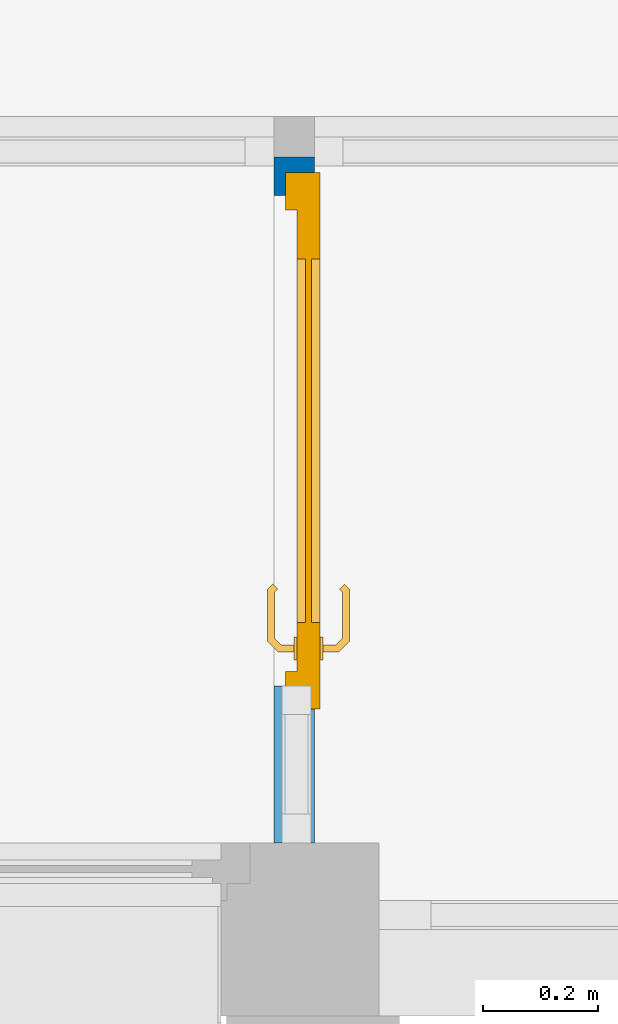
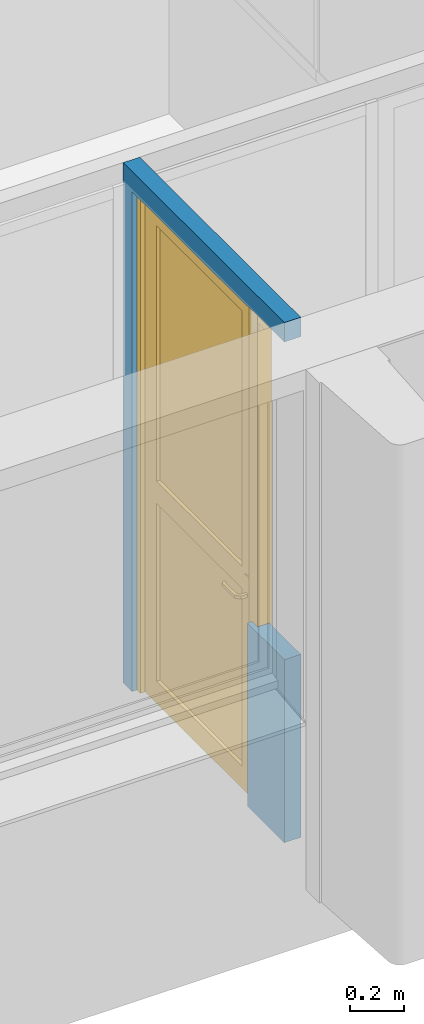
# One storey, part 11 of 19: 1 door, 1 wall, 2 openings.
"""IFC4 building model written with IfcOpenShell, lengths in metres."""

import ifcopenshell
import ifcopenshell.guid

model = None  # the IFC model being written
_history = None  # IfcOwnerHistory: only IFC2X3 demands one
_inside = {}  # id of a spatial element -> (the spatial element, [elements in it])
_under = {}  # id of a project, library or spatial element -> (it, [spatial elements below it])
_declared = {}  # id of a project -> (the project, [libraries it declares])
_typed = {}  # id of a type object -> (the type object, [elements of that type])
_made_of = {}  # id of a material, layer set ... -> (it, [elements and type objects made of it])


def new_model(schema):
    """Start an empty IFC model of exactly this schema.

    Asked for "IFC4X3", IfcOpenShell would pick the latest addendum, in which some entities
    have other attributes; the version numbers below select the first issue.
    IFC2X3 requires an IfcOwnerHistory on every rooted entity: one is made here for all.
    """
    global model, _history
    if schema == "IFC4X3":
        model = ifcopenshell.file(schema_version=(4, 3, 0, 0))
    else:
        model = ifcopenshell.file(schema=schema)
    _inside.clear()
    _under.clear()
    _declared.clear()
    _typed.clear()
    _made_of.clear()
    _history = None
    if model.schema == "IFC2X3":
        org = make("IfcOrganization", Name="unknown")
        user = make(
            "IfcPersonAndOrganization",
            ThePerson=make("IfcPerson", FamilyName="unknown"),
            TheOrganization=org,
        )
        app = make(
            "IfcApplication",
            ApplicationDeveloper=org,
            Version="unknown",
            ApplicationFullName="unknown",
            ApplicationIdentifier="unknown",
        )
        _history = make(
            "IfcOwnerHistory",
            OwningUser=user,
            OwningApplication=app,
            ChangeAction="ADDED",
            CreationDate=0,
        )
    return model


def make(cls, **values):
    """One entity of the class cls with the attributes given. An attribute that is None is left unset."""
    return model.create_entity(
        cls, **{name: value for name, value in values.items() if value is not None}
    )


def entity(cls, *values):
    """Any entity or typed value of the class cls, its attributes in the order of the schema. None: left unset."""
    e = model.create_entity(cls)
    for i, value in enumerate(values):
        if value is not None:
            e[i] = value
    return e


def rooted(cls, **values):
    """An entity with a GlobalId (a new one), such as an element, a storey or a relation."""
    return make(cls, GlobalId=ifcopenshell.guid.new(), OwnerHistory=_history, **values)


def si_unit(unit_type, name, prefix=None):
    """IfcSIUnit, for example si_unit("LENGTHUNIT", "METRE", prefix="MILLI")."""
    return make("IfcSIUnit", UnitType=unit_type, Prefix=prefix, Name=name)


def converted_unit(unit_type, name, factor, base, dimensions=None, offset=None):
    """IfcConversionBasedUnit, such as the inch: factor (a typed value) times the base unit."""
    return make(
        "IfcConversionBasedUnit"
        if offset is None
        else "IfcConversionBasedUnitWithOffset",
        ConversionOffset=offset,
        Dimensions=None
        if dimensions is None
        else entity("IfcDimensionalExponents", *dimensions),
        UnitType=unit_type,
        Name=name,
        ConversionFactor=make(
            "IfcMeasureWithUnit", ValueComponent=factor, UnitComponent=base
        ),
    )


def derived_unit(unit_type, elements):
    """IfcDerivedUnit: a product of units, each with its exponent."""
    return make(
        "IfcDerivedUnit",
        Elements=[
            make("IfcDerivedUnitElement", Unit=unit, Exponent=power)
            for unit, power in elements
        ],
        UnitType=unit_type,
    )


def assignment(units):
    """IfcUnitAssignment: the units of a project."""
    return None if units is None else make("IfcUnitAssignment", Units=units)


def point(xyz):
    """IfcCartesianPoint."""
    return None if xyz is None else make("IfcCartesianPoint", Coordinates=xyz)


def direction(xyz):
    """IfcDirection."""
    return None if xyz is None else make("IfcDirection", DirectionRatios=xyz)


def frame(location, z_axis=None, x_axis=None):
    """IfcAxis2Placement3D, a coordinate frame: its origin and axes. An axis left out is left unset."""
    return make(
        "IfcAxis2Placement3D",
        Location=point(location),
        Axis=direction(z_axis),
        RefDirection=direction(x_axis),
    )


def origin():
    """The frame at (0, 0, 0) with its axes left unset."""
    return frame((0.0, 0.0, 0.0))


def place(relative_to, where):
    """IfcLocalPlacement: puts the frame where relative to a parent placement (None: the world)."""
    return make(
        "IfcLocalPlacement", PlacementRelTo=relative_to, RelativePlacement=where
    )


def context(
    kind, dimensions, precision=None, world=None, true_north=None, identifier=None
):
    """IfcGeometricRepresentationContext, for example the 3D "Model" context."""
    return make(
        "IfcGeometricRepresentationContext",
        ContextIdentifier=identifier,
        ContextType=kind,
        CoordinateSpaceDimension=dimensions,
        Precision=precision,
        WorldCoordinateSystem=world,
        TrueNorth=true_north,
    )


def subcontext(parent, identifier, kind, view, scale=None):
    """IfcGeometricRepresentationSubContext, for example "Body" below "Model"."""
    return make(
        "IfcGeometricRepresentationSubContext",
        ContextIdentifier=identifier,
        ContextType=kind,
        ParentContext=parent,
        TargetScale=scale,
        TargetView=view,
    )


def project(units=None, contexts=None):
    """IfcProject with its units and contexts."""
    return rooted(
        "IfcProject",
        Name="project",
        RepresentationContexts=contexts,
        UnitsInContext=assignment(units),
    )


def spatial(cls, under=None, at=None, **own):
    """A site, building, storey or space (cls), placed at a placement, below another one or the project."""
    s = rooted(cls, ObjectPlacement=at, **own)
    if under is not None:
        _under.setdefault(under.id(), (under, []))[1].append(s)
    return s


def point_list(points):
    """IfcCartesianPointList2D or 3D."""
    cls = (
        "IfcCartesianPointList2D" if len(points[0]) == 2 else "IfcCartesianPointList3D"
    )
    return make(cls, CoordList=points)


def indexed_curve(points, segments=None, self_intersect=None):
    """IfcIndexedPolyCurve: lines and arcs through numbered points (the first is 1)."""
    return make(
        "IfcIndexedPolyCurve",
        Points=point_list(points),
        Segments=segments,
        SelfIntersect=self_intersect,
    )


def outline(outer, holes=None, kind="AREA"):
    """IfcArbitraryClosedProfileDef: a profile drawn as a closed curve; with holes, ...WithVoids."""
    if holes is None:
        return make("IfcArbitraryClosedProfileDef", ProfileType=kind, OuterCurve=outer)
    return make(
        "IfcArbitraryProfileDefWithVoids",
        ProfileType=kind,
        OuterCurve=outer,
        InnerCurves=holes,
    )


def extrude(swept, where, along, depth):
    """IfcExtrudedAreaSolid: the profile swept, set in the frame where, extruded along a direction by depth."""
    return make(
        "IfcExtrudedAreaSolid",
        SweptArea=swept,
        Position=where,
        ExtrudedDirection=direction(along),
        Depth=depth,
    )


def polygons(points, faces, closed=None, point_numbers=None):
    """IfcPolygonalFaceSet: a face is its outer loop, then its inner loops; points numbered from 1."""
    made = []
    for loops in faces:
        if len(loops) == 1:
            made.append(make("IfcIndexedPolygonalFace", CoordIndex=loops[0]))
        else:
            made.append(
                make(
                    "IfcIndexedPolygonalFaceWithVoids",
                    CoordIndex=loops[0],
                    InnerCoordIndices=loops[1:],
                )
            )
    return make(
        "IfcPolygonalFaceSet",
        Coordinates=point_list(points),
        Closed=closed,
        Faces=made,
        PnIndex=point_numbers,
    )


def shape(context_of_items, identifier, shape_type, items):
    """IfcShapeRepresentation: the items that make up one representation, for example the "Body"."""
    return make(
        "IfcShapeRepresentation",
        ContextOfItems=context_of_items,
        RepresentationIdentifier=identifier,
        RepresentationType=shape_type,
        Items=items,
    )


def source(mapping_origin, context_of_items, identifier, shape_type, items):
    """IfcRepresentationMap: a shape defined once, which mapped items show again and again."""
    return make(
        "IfcRepresentationMap",
        MappingOrigin=mapping_origin,
        MappedRepresentation=shape(context_of_items, identifier, shape_type, items),
    )


def transform(
    local_origin,
    x_axis=None,
    y_axis=None,
    z_axis=None,
    scale=None,
    scale2=None,
    scale3=None,
    uniform=True,
):
    """IfcCartesianTransformationOperator3D, or its non-uniform kind. x_axis, y_axis, z_axis: its Axis1, 2, 3."""
    if uniform:
        return make(
            "IfcCartesianTransformationOperator3D",
            Axis1=direction(x_axis),
            Axis2=direction(y_axis),
            LocalOrigin=point(local_origin),
            Scale=scale,
            Axis3=direction(z_axis),
        )
    return make(
        "IfcCartesianTransformationOperator3DnonUniform",
        Axis1=direction(x_axis),
        Axis2=direction(y_axis),
        LocalOrigin=point(local_origin),
        Scale=scale,
        Axis3=direction(z_axis),
        Scale2=scale2,
        Scale3=scale3,
    )


def mapped(mapping_source, mapping_target):
    """IfcMappedItem: shows the shape of a source again, moved by a transform."""
    return make(
        "IfcMappedItem", MappingSource=mapping_source, MappingTarget=mapping_target
    )


def material(Name=None, Category=None):
    """IfcMaterial."""
    return make("IfcMaterial", Name=Name, Category=Category)


def material_list(materials):
    """IfcMaterialList."""
    return make("IfcMaterialList", Materials=materials)


def layer(
    of_material, thickness, ventilated=None, Name=None, Category=None, Priority=None
):
    """IfcMaterialLayer: one layer of a wall or slab, of a material (None: an air gap)."""
    return make(
        "IfcMaterialLayer",
        Material=of_material,
        LayerThickness=thickness,
        IsVentilated=ventilated,
        Name=Name,
        Category=Category,
        Priority=Priority,
    )


def layer_set(layers, Name=None):
    """IfcMaterialLayerSet."""
    return make("IfcMaterialLayerSet", MaterialLayers=layers, LayerSetName=Name)


def constituent(of_material, Name=None, Category=None, fraction=None):
    """IfcMaterialConstituent: one of the materials an element consists of."""
    return make(
        "IfcMaterialConstituent",
        Name=Name,
        Material=of_material,
        Fraction=fraction,
        Category=Category,
    )


def constituent_set(constituents=None, Name=None):
    """IfcMaterialConstituentSet."""
    return make(
        "IfcMaterialConstituentSet", Name=Name, MaterialConstituents=constituents
    )


def made_of(thing, what):
    """Note that an element or type object is made of a material, layer set ...; save() writes the relation."""
    if what is not None:
        _made_of.setdefault(what.id(), (what, []))[1].append(thing)
    return thing


def type_object(cls, material=None, **own):
    """A type object (cls), such as IfcWallType, which elements share."""
    return made_of(rooted(cls, **own), material)


def type_shapes(of_type, sources):
    """Give a type object the sources (RepresentationMaps) that its elements show as mapped items."""
    of_type.RepresentationMaps = sources


def element(
    cls,
    number,
    at=None,
    inside=None,
    cuts=None,
    type_object=None,
    material=None,
    context=None,
    identifier="Body",
    shape_type=None,
    held_by="IfcProductDefinitionShape",
    body=None,
    shapes=None,
    **own,
):
    """One element of the class cls, such as IfcWall. Its Tag is "e" and its number.

    at: its placement. inside: the storey or other place that contains it. cuts: it is an
    opening in that element (IfcRelVoidsElement). A single representation is given by context,
    identifier, shape_type and body (its items); several are given by shapes. held_by: the class
    of the entity that holds the representations. save() writes the other relations.
    """
    e = rooted(cls, Tag="e%d" % number, ObjectPlacement=at, **own)
    if body is not None:
        shapes = [shape(context, identifier, shape_type, body)]
    if shapes is not None:
        e.Representation = make(held_by, Representations=shapes)
    if inside is not None:
        _inside.setdefault(inside.id(), (inside, []))[1].append(e)
    if cuts is not None:
        rooted(
            "IfcRelVoidsElement", RelatingBuildingElement=cuts, RelatedOpeningElement=e
        )
    if type_object is not None:
        _typed.setdefault(type_object.id(), (type_object, []))[1].append(e)
    return made_of(e, material)


def fill(opening, filler):
    """IfcRelFillsElement: the door or window that sits in an opening."""
    return rooted(
        "IfcRelFillsElement",
        RelatingOpeningElement=opening,
        RelatedBuildingElement=filler,
    )


def aggregate(whole, parts):
    """IfcRelAggregates: a whole, such as a stair, and the parts it consists of."""
    return rooted("IfcRelAggregates", RelatingObject=whole, RelatedObjects=parts)


def save(model, path):
    """Write the relations noted so far, then the file.

    IfcRelAggregates (storeys below a building ...), IfcRelContainedInSpatialStructure (elements
    in a storey), IfcRelDefinesByType, IfcRelAssociatesMaterial and IfcRelDeclares: one each for
    every whole, place, type object, material and project.
    """
    for whole, parts in _under.values():
        aggregate(whole, parts)
    for where, things in _inside.values():
        rooted(
            "IfcRelContainedInSpatialStructure",
            RelatedElements=things,
            RelatingStructure=where,
        )
    for kind, things in _typed.values():
        rooted("IfcRelDefinesByType", RelatedObjects=things, RelatingType=kind)
    for what, things in _made_of.values():
        rooted("IfcRelAssociatesMaterial", RelatedObjects=things, RelatingMaterial=what)
    for by, libraries in _declared.values():
        rooted("IfcRelDeclares", RelatingContext=by, RelatedDefinitions=libraries)
    model.write(path)


model = new_model("IFC4")

# Units and contexts
model_context = context("Model", 3, precision=1e-05, world=origin(), true_north=direction((6.12303176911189e-17, 1.0)))
body_context = subcontext(model_context, "Body", "Model", "MODEL_VIEW")
ifc_project = project(units=[si_unit("LENGTHUNIT", "METRE"), si_unit("AREAUNIT", "SQUARE_METRE"), si_unit("VOLUMEUNIT", "CUBIC_METRE"), converted_unit("PLANEANGLEUNIT", "DEGREE", entity("IfcRatioMeasure", 0.0174532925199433), si_unit("PLANEANGLEUNIT", "RADIAN"), dimensions=[0, 0, 0, 0, 0, 0, 0]), si_unit("MASSUNIT", "GRAM", prefix="KILO"), derived_unit("MASSDENSITYUNIT", [(si_unit("MASSUNIT", "GRAM", prefix="KILO"), 1), (si_unit("LENGTHUNIT", "METRE"), -3)]), derived_unit("MOMENTOFINERTIAUNIT", [(si_unit("LENGTHUNIT", "METRE"), 4)]), si_unit("TIMEUNIT", "SECOND"), si_unit("FREQUENCYUNIT", "HERTZ"), si_unit("THERMODYNAMICTEMPERATUREUNIT", "DEGREE_CELSIUS"), derived_unit("THERMALTRANSMITTANCEUNIT", [(si_unit("MASSUNIT", "GRAM", prefix="KILO"), 1), (si_unit("THERMODYNAMICTEMPERATUREUNIT", "KELVIN"), -1), (si_unit("TIMEUNIT", "SECOND"), -3)]), derived_unit("VOLUMETRICFLOWRATEUNIT", [(si_unit("LENGTHUNIT", "METRE"), 3), (si_unit("TIMEUNIT", "SECOND"), -1)]), si_unit("ELECTRICCURRENTUNIT", "AMPERE"), si_unit("ELECTRICVOLTAGEUNIT", "VOLT"), si_unit("POWERUNIT", "WATT"), si_unit("FORCEUNIT", "NEWTON", prefix="KILO"), si_unit("ILLUMINANCEUNIT", "LUX"), si_unit("LUMINOUSFLUXUNIT", "LUMEN"), si_unit("LUMINOUSINTENSITYUNIT", "CANDELA"), derived_unit("USERDEFINED", [(si_unit("MASSUNIT", "GRAM", prefix="KILO"), -1), (si_unit("LENGTHUNIT", "METRE"), -2), (si_unit("TIMEUNIT", "SECOND"), 3), (si_unit("LUMINOUSFLUXUNIT", "LUMEN"), 1)]), derived_unit("LINEARVELOCITYUNIT", [(si_unit("LENGTHUNIT", "METRE"), 1), (si_unit("TIMEUNIT", "SECOND"), -1)]), si_unit("PRESSUREUNIT", "PASCAL"), derived_unit("USERDEFINED", [(si_unit("LENGTHUNIT", "METRE"), -2), (si_unit("MASSUNIT", "GRAM", prefix="KILO"), 1), (si_unit("TIMEUNIT", "SECOND"), -2)]), derived_unit("LINEARFORCEUNIT", [(si_unit("MASSUNIT", "GRAM", prefix="KILO"), 1), (si_unit("LENGTHUNIT", "METRE"), 1), (si_unit("TIMEUNIT", "SECOND"), -2), (si_unit("LENGTHUNIT", "METRE"), -1)]), derived_unit("PLANARFORCEUNIT", [(si_unit("MASSUNIT", "GRAM", prefix="KILO"), 1), (si_unit("LENGTHUNIT", "METRE"), 1), (si_unit("TIMEUNIT", "SECOND"), -2), (si_unit("LENGTHUNIT", "METRE"), -2)])], contexts=[model_context])

# Site, building, storey
site_placement = place(None, origin())
site = spatial("IfcSite", under=ifc_project, at=site_placement, Name="Default", CompositionType="ELEMENT")
building_placement = place(site_placement, origin())
building = spatial("IfcBuilding", under=site, at=building_placement, Name="HOTEL CONSULAIRE BOULOGNE SUR MER", CompositionType="ELEMENT")
storey_placement = place(building_placement, frame((0.0, 0.0, -4.01003075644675)))
storey = spatial("IfcBuildingStorey", under=building, at=storey_placement, Name="SS2", CompositionType="ELEMENT", Elevation=-4.01003075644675)

# Wall, openings, door
ifc_material_1 = material(Name="Mur par défaut", Category="Divers")
ifc_layer = layer(ifc_material_1, 0.07, Name="Mur par défaut", Category="Divers")
ifc_layer_set = layer_set([ifc_layer], Name="Mur de base:Générique - Int. 70 mm")
wall_type = type_object("IfcWallType", Name="Mur de base:Générique - Int. 70 mm", PredefinedType="NOTDEFINED", material=ifc_layer_set)
wall_placement = place(storey_placement, frame((-17.3117787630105, -14.7375756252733, 0.0), z_axis=(0.0, 0.0, 1.0), x_axis=(0.0, 1.0, 0.0)))
wall = element("IfcWall", 1, at=wall_placement, inside=storey, type_object=wall_type, material=ifc_layer_set, Name="Mur de base:Générique - Int. 70 mm", ObjectType="Mur de base:Générique - Int. 70 mm", PredefinedType="NOTDEFINED", context=body_context, shape_type="Tessellation", body=[
    polygons([(0.0, -0.0349999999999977, 0.0), (0.232000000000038, -0.0349999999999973, 0.0), (0.232000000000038, -0.0349999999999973, 0.824265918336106), (0.0, -0.0349999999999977, 0.824265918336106), (0.27200000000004, 0.0350000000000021, 0.0), (0.0, 0.0350000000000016, 0.0), (0.0, 0.0350000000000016, 0.824265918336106), (0.27200000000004, 0.0350000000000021, 0.824265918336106), (0.27200000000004, 0.0150000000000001, 0.0), (0.232000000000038, 0.015, 0.0), (0.27200000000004, 0.0150000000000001, 0.824265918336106), (0.232000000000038, 0.0149999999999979, 0.824265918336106)], [[[4, 1, 2, 3]], [[11, 12, 10, 9]], [[8, 5, 6, 7]], [[1, 6, 5, 9, 10, 2]], [[6, 1, 4, 7]], [[9, 5, 8, 11]], [[12, 3, 2, 10]], [[8, 7, 4, 3, 12, 11]]], closed=True),
    polygons([(1.18825145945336, -0.0349999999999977, 2.34113097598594), (0.0, -0.0349999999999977, 2.34113097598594), (0.0, -0.0349999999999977, 2.25353263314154), (0.232000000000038, -0.0349999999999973, 2.25353263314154), (0.232000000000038, -0.0349999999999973, 2.29000000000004), (1.16199999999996, -0.0349999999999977, 2.29000000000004), (1.16199999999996, -0.0349999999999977, 0.0), (1.18825145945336, -0.0349999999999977, 0.0), (1.18825145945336, -0.0349999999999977, 0.824265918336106), (1.18825145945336, -0.0349999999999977, 2.25353263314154), (1.18825145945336, 0.0350000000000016, 0.0), (1.16199999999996, 0.0150000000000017, 0.0), (1.12199999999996, 0.0150000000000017, 0.0), (1.12199999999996, 0.0350000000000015, 0.0), (0.0, 0.0350000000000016, 2.34113097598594), (1.18825145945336, 0.0350000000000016, 2.34113097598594), (1.18825145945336, 0.0350000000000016, 2.25353263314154), (1.18825145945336, 0.0350000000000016, 0.824265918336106), (1.12199999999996, 0.0350000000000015, 2.25000000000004), (0.27200000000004, 0.0350000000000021, 2.25000000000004), (0.27200000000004, 0.0350000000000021, 2.25353263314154), (0.0, 0.0350000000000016, 2.25353263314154), (0.272000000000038, 0.0150000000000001, 2.25000000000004), (1.12199999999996, 0.0149999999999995, 2.25000000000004), (1.16199999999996, 0.0149999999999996, 2.29000000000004), (0.232000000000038, 0.015, 2.29000000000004), (0.232000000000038, 0.015, 2.25353263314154), (0.27200000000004, 0.0150000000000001, 2.25353263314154)], [[[3, 4, 5, 6, 7, 8, 9, 10, 1, 2]], [[28, 23, 24, 13, 12, 25, 26, 27]], [[8, 7, 12, 13, 14, 11]], [[23, 20, 19, 24]], [[25, 6, 5, 26]], [[27, 4, 3, 22, 21, 28]], [[11, 14, 19, 20, 21, 22, 15, 16, 17, 18]], [[22, 3, 2, 15]], [[14, 13, 24, 19]], [[7, 6, 25, 12]], [[23, 28, 21, 20]], [[5, 4, 27, 26]], [[9, 8, 11, 18, 17, 16, 1, 10]], [[2, 1, 16, 15]]], closed=True),
])
opening_1_placement = place(wall_placement, frame((0.0, 0.1874, 0.824265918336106)))
element("IfcOpeningElement", 2, at=opening_1_placement, cuts=wall, Name="Mur de base:Générique - Int. 70 mm", ObjectType="Opening", PredefinedType="OPENING", context=body_context, shape_type="SweptSolid", body=[
    extrude(outline(indexed_curve([(-0.714633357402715, -0.136000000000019), (0.714633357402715, -0.136000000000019), (0.714633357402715, 0.136000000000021), (-0.714633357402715, 0.136000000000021), (-0.714633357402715, -0.136000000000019)], self_intersect=False)), frame((0.136000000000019, -0.374799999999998, 0.714633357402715), z_axis=(0.0, 1.0, 0.0), x_axis=(0.0, 0.0, 1.0)), (0.0, 0.0, 1.0), 0.374799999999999),
])
opening_2_placement = place(wall_placement, frame((0.232000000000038, 0.335000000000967, 0.0), z_axis=(0.0, 0.0, 1.0), x_axis=(0.0, -1.0, 0.0)))
opening_2 = element("IfcOpeningElement", 3, at=opening_2_placement, cuts=wall, Name="Mur de base:Générique - Int. 70 mm", ObjectType="Opening", PredefinedType="OPENING", context=body_context, shape_type="Tessellation", body=[
    polygons([(0.0, 0.0400000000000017, 2.25000000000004), (0.320000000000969, 0.0400000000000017, 2.25000000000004), (0.320000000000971, 0.889999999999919, 2.25000000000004), (2.16573425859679e-15, 0.889999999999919, 2.25000000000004), (0.0, 0.0400000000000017, 0.0), (0.320000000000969, 0.0400000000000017, 0.0), (0.67000000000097, 0.889999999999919, 0.0), (0.370000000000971, 0.889999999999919, 0.0), (0.370000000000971, 0.889999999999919, 2.25000000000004), (0.67000000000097, 0.889999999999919, 2.25000000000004), (0.370000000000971, 0.0400000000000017, 2.25000000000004), (0.67000000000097, 0.0399999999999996, 2.25000000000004), (2.16573425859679e-15, 0.889999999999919, 0.0), (0.320000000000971, 0.889999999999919, 0.0), (0.320000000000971, 0.929999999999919, 0.0), (0.370000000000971, 0.929999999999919, 0.0), (0.67000000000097, 0.0399999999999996, 0.0), (0.370000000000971, 0.0400000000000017, 0.0), (0.370000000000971, 0.0, 0.0), (0.320000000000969, 2.16573425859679e-15, 0.0), (0.370000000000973, 0.929999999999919, 2.29000000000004), (0.370000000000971, 2.16573425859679e-15, 2.29000000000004), (0.320000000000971, 0.0, 2.29000000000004), (0.320000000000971, 0.929999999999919, 2.29000000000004)], [[[3, 4, 1, 2]], [[10, 9, 11, 12]], [[23, 22, 21, 24]], [[2, 1, 5, 6]], [[12, 11, 18, 17]], [[20, 19, 22, 23]], [[9, 10, 7, 8]], [[4, 3, 14, 13]], [[24, 21, 16, 15]], [[6, 5, 13, 14, 15, 16, 8, 7, 17, 18, 19, 20]], [[1, 4, 13, 5]], [[6, 20, 23, 24, 15, 14, 3, 2]], [[10, 12, 17, 7]], [[8, 16, 21, 22, 19, 18, 11, 9]]], closed=True),
])
ifc_material_2 = material(Name="PVC - Blanc", Category="Plastique")
ifc_constituent_1 = constituent(ifc_material_2, Name="PVC - Blanc", Category="Matériaux")
ifc_material_3 = material(Name="Verre", Category="Verre")
ifc_constituent_2 = constituent(ifc_material_3, Name="Verre", Category="Matériaux")
ifc_constituent_set = constituent_set(constituents=[ifc_constituent_1, ifc_constituent_2], Name="MaterialConstituentSet")
ifc_material_list = material_list([ifc_material_2, ifc_material_2, ifc_material_2])
door_type = type_object("IfcDoorType", Name="PVC Panneau Vitré :0.83m x 2.24", OperationType="SINGLE_SWING_RIGHT", PredefinedType="DOOR", material=ifc_material_list)
shared_shape = source(origin(), body_context, "Body", "Tessellation", [
    polygons([(0.110999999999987, -0.33500000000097, 0.89300000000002), (0.110999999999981, -0.33500000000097, 0.906999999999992), (0.107025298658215, -0.33500000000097, 0.907780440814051), (0.102974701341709, -0.33500000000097, 0.907780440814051), (0.098999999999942, -0.33500000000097, 0.906999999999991), (0.0989999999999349, -0.33500000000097, 0.892999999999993), (0.102974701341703, -0.33500000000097, 0.892219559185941), (0.107025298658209, -0.33500000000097, 0.892219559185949), (0.110999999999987, -0.312514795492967, 0.89300000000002), (0.110999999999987, -0.312514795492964, 0.906999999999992), (0.107025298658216, -0.310868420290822, 0.907780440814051), (0.102974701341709, -0.309190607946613, 0.907780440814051), (0.0989999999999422, -0.30754423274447, 0.906999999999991), (0.0989999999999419, -0.307544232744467, 0.892999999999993), (0.102974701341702, -0.30919060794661, 0.892219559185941), (0.107025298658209, -0.310868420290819, 0.892219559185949), (0.122485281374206, -0.301029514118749, 0.89300000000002), (0.122485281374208, -0.301029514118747, 0.906999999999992), (0.120838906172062, -0.297054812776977, 0.907780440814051), (0.119161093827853, -0.29300421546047, 0.907780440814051), (0.117514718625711, -0.289029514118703, 0.906999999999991), (0.117514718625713, -0.289029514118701, 0.892999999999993), (0.11916109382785, -0.293004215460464, 0.892219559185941), (0.120838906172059, -0.29705481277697, 0.892219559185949), (0.202560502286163, -0.301029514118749, 0.893000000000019), (0.202560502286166, -0.301029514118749, 0.906999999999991), (0.204206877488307, -0.297054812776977, 0.907780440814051), (0.205884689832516, -0.29300421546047, 0.90778044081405), (0.207531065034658, -0.289029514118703, 0.90699999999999), (0.167600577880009, -0.289029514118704, 0.906999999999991), (0.162522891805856, -0.294875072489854, 0.907878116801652), (0.162522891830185, -0.301029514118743, 0.906999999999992), (0.207531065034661, -0.289029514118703, 0.892999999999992), (0.205884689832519, -0.293004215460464, 0.892219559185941), (0.20420687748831, -0.29705481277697, 0.892219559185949), (0.157445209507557, -0.289029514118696, 0.892999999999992), (0.162522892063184, -0.294875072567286, 0.892121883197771), (0.162522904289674, -0.301029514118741, 0.893000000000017), (0.20787421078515, -0.306343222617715, 0.893000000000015), (0.210684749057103, -0.303532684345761, 0.892219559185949), (0.21354895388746, -0.300668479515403, 0.892219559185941), (0.21635949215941, -0.297857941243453, 0.89299999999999), (0.21635949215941, -0.297857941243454, 0.90699999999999), (0.213548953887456, -0.300668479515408, 0.90778044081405), (0.210684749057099, -0.303532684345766, 0.907780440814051), (0.20787421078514, -0.306343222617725, 0.90699999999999)], [[[4, 5, 6, 7, 8, 1, 2, 3]], [[18, 17, 38, 25, 26, 32]], [[2, 1, 9, 10]], [[10, 11, 3, 2]], [[11, 19, 20, 12, 4, 3]], [[45, 44, 28, 27]], [[12, 13, 5, 4]], [[6, 5, 13, 14]], [[14, 15, 7, 6]], [[15, 23, 24, 16, 8, 7]], [[41, 40, 35, 34]], [[16, 9, 1, 8]], [[10, 9, 17, 18]], [[39, 40, 41, 42, 43, 44, 45, 46]], [[18, 19, 11, 10]], [[20, 21, 13, 12]], [[14, 13, 21, 22]], [[22, 23, 15, 14]], [[24, 17, 9, 16]], [[19, 32, 31]], [[28, 29, 30]], [[21, 20, 30]], [[30, 20, 31]], [[31, 32, 27]], [[27, 28, 31]], [[32, 19, 18]], [[26, 27, 32]], [[19, 31, 20]], [[30, 31, 28]], [[22, 21, 30, 29, 33, 36]], [[36, 37, 23]], [[37, 36, 34]], [[23, 22, 36]], [[33, 34, 36]], [[37, 38, 24]], [[24, 23, 37]], [[35, 38, 37]], [[17, 24, 38]], [[38, 35, 25]], [[35, 37, 34]], [[26, 25, 39, 46]], [[46, 45, 27, 26]], [[44, 43, 29, 28]], [[33, 29, 43, 42]], [[42, 41, 34, 33]], [[40, 39, 25, 35]]], closed=True),
    polygons([(0.0989999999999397, -0.38500000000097, 0.906999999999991), (0.102974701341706, -0.38500000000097, 0.90778044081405), (0.107025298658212, -0.38500000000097, 0.907780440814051), (0.110999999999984, -0.38500000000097, 0.906999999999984), (0.110999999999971, -0.38500000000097, 0.893000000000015), (0.107025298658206, -0.38500000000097, 0.892219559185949), (0.1029747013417, -0.38500000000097, 0.892219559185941), (0.0989999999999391, -0.38500000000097, 0.892999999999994), (0.0989999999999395, -0.412650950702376, 0.906999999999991), (0.102974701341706, -0.411004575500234, 0.90778044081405), (0.107025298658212, -0.409326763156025, 0.907780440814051), (0.110999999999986, -0.40768038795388, 0.906999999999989), (0.110999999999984, -0.407680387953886, 0.893000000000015), (0.107025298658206, -0.409326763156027, 0.892219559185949), (0.1029747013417, -0.411004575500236, 0.892219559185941), (0.0989999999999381, -0.412650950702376, 0.892999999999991), (0.117377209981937, -0.431028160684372, 0.906999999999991), (0.119023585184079, -0.427053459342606, 0.90778044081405), (0.120701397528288, -0.423002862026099, 0.907780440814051), (0.122347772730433, -0.419028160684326, 0.906999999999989), (0.122347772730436, -0.419028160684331, 0.893000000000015), (0.120701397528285, -0.423002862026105, 0.892219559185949), (0.119023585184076, -0.427053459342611, 0.892219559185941), (0.117377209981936, -0.431028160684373, 0.892999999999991), (0.207503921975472, -0.431028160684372, 0.90699999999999), (0.20585754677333, -0.427053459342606, 0.90778044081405), (0.204179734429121, -0.423002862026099, 0.907780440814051), (0.202533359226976, -0.419028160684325, 0.906999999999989), (0.157307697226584, -0.431028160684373, 0.90699999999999), (0.162440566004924, -0.425182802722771, 0.907878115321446), (0.162440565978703, -0.419028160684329, 0.90699999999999), (0.202533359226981, -0.419028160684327, 0.893000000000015), (0.204179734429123, -0.423002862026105, 0.892219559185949), (0.205857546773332, -0.427053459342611, 0.892219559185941), (0.207503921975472, -0.431028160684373, 0.89299999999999), (0.167573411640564, -0.431028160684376, 0.892999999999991), (0.162440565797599, -0.42518280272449, 0.892121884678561), (0.162440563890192, -0.41902816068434, 0.893000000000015), (0.216332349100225, -0.422199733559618, 0.906999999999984), (0.216332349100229, -0.422199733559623, 0.892999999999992), (0.213521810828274, -0.419389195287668, 0.892219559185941), (0.210657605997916, -0.416524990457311, 0.892219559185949), (0.207847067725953, -0.413714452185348, 0.893000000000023), (0.207847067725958, -0.413714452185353, 0.906999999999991), (0.210657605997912, -0.416524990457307, 0.907780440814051), (0.21352181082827, -0.419389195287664, 0.90778044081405)], [[[2, 3, 4, 5, 6, 7, 8, 1]], [[21, 20, 31, 28, 32, 38]], [[9, 10, 2, 1]], [[10, 18, 19, 11, 3, 2]], [[46, 45, 27, 26]], [[11, 12, 4, 3]], [[5, 4, 12, 13]], [[13, 14, 6, 5]], [[14, 22, 23, 15, 7, 6]], [[42, 41, 34, 33]], [[15, 16, 8, 7]], [[1, 8, 16, 9]], [[17, 18, 10, 9]], [[19, 20, 12, 11]], [[13, 12, 20, 21]], [[44, 45, 46, 39, 40, 41, 42, 43]], [[21, 22, 14, 13]], [[23, 24, 16, 15]], [[9, 16, 24, 17]], [[29, 30, 18]], [[30, 29, 26]], [[18, 17, 29]], [[25, 26, 29]], [[30, 31, 19]], [[19, 18, 30]], [[27, 31, 30]], [[20, 19, 31]], [[31, 27, 28]], [[27, 30, 26]], [[22, 38, 37]], [[34, 35, 36]], [[24, 23, 36]], [[36, 23, 37]], [[37, 38, 33]], [[33, 34, 37]], [[38, 22, 21]], [[32, 33, 38]], [[22, 37, 23]], [[36, 37, 34]], [[17, 24, 36, 35, 25, 29]], [[39, 46, 26, 25]], [[45, 44, 28, 27]], [[32, 28, 44, 43]], [[43, 42, 33, 32]], [[41, 40, 35, 34]], [[25, 35, 40, 39]]], closed=True),
    polygons([(0.124999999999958, -0.34000000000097, 0.980000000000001), (0.115352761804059, -0.34000000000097, 0.983996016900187), (0.104999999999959, -0.34000000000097, 0.985358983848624), (0.0946472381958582, -0.34000000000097, 0.983996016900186), (0.0849999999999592, -0.34000000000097, 0.980000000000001), (0.0849999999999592, -0.34000000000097, 0.770000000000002), (0.0946472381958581, -0.34000000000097, 0.766003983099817), (0.104999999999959, -0.34000000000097, 0.764641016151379), (0.115352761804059, -0.34000000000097, 0.766003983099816), (0.124999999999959, -0.34000000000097, 0.770000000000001), (0.124999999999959, -0.33500000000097, 0.980000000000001), (0.124999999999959, -0.33500000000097, 0.770000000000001), (0.115352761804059, -0.33500000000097, 0.766003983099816), (0.104999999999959, -0.33500000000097, 0.764641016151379), (0.0946472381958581, -0.33500000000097, 0.766003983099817), (0.0849999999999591, -0.33500000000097, 0.770000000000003), (0.0849999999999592, -0.33500000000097, 0.980000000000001), (0.0946472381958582, -0.33500000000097, 0.983996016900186), (0.104999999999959, -0.33500000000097, 0.985358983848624), (0.115352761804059, -0.33500000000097, 0.983996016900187)], [[[9, 10, 1, 2, 3, 4, 5, 6, 7, 8]], [[20, 11, 12, 13, 14, 15, 16, 17, 18, 19]], [[11, 20, 2, 1]], [[2, 20, 19, 3]], [[19, 18, 4, 3]], [[18, 17, 5, 4]], [[6, 5, 17, 16]], [[16, 15, 7, 6]], [[7, 15, 14, 8]], [[14, 13, 9, 8]], [[13, 12, 10, 9]], [[1, 10, 12, 11]]], closed=True),
    polygons([(0.084999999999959, -0.38500000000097, 0.770000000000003), (0.0946472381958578, -0.38500000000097, 0.766003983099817), (0.104999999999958, -0.38500000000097, 0.764641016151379), (0.115352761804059, -0.38500000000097, 0.766003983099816), (0.124999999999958, -0.38500000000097, 0.770000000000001), (0.124999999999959, -0.38500000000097, 0.980000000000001), (0.11535276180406, -0.38500000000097, 0.983996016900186), (0.104999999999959, -0.38500000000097, 0.985358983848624), (0.0946472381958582, -0.38500000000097, 0.983996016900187), (0.0849999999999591, -0.38500000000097, 0.980000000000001), (0.084999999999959, -0.38000000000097, 0.770000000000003), (0.0849999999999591, -0.38000000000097, 0.980000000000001), (0.0946472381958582, -0.38000000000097, 0.983996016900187), (0.104999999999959, -0.38000000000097, 0.985358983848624), (0.11535276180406, -0.38000000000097, 0.983996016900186), (0.124999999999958, -0.38000000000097, 0.980000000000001), (0.124999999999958, -0.38000000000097, 0.770000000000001), (0.115352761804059, -0.38000000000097, 0.766003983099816), (0.104999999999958, -0.38000000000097, 0.764641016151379), (0.0946472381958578, -0.38000000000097, 0.766003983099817)], [[[4, 5, 6, 7, 8, 9, 10, 1, 2, 3]], [[15, 16, 17, 18, 19, 20, 11, 12, 13, 14]], [[11, 20, 2, 1]], [[2, 20, 19, 3]], [[19, 18, 4, 3]], [[18, 17, 5, 4]], [[6, 5, 17, 16]], [[16, 15, 7, 6]], [[7, 15, 14, 8]], [[14, 13, 9, 8]], [[13, 12, 10, 9]], [[1, 10, 12, 11]]], closed=True),
    polygons([(1.35358391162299e-16, -0.38000000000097, 0.0), (1.35358391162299e-16, -0.32000000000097, 0.0), (0.0649999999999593, -0.32000000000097, 0.0), (0.0649999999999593, -0.34000000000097, 0.0), (0.0499999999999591, -0.34000000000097, 0.0), (0.0499999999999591, -0.38000000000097, 0.0), (6.76791955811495e-17, -0.38000000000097, 2.29000000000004), (6.76791955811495e-17, -0.32000000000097, 2.29000000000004), (0.929999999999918, -0.32000000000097, 2.29000000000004), (0.929999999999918, -0.32000000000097, 6.18310647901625e-24), (0.864999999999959, -0.32000000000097, 1.39163836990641e-24), (0.864999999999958, -0.32000000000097, 2.22500000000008), (0.0649999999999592, -0.32000000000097, 2.22500000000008), (0.0649999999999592, -0.34000000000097, 2.22500000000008), (0.864999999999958, -0.34000000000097, 2.22500000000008), (0.864999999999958, -0.34000000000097, 1.76770455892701e-24), (0.879999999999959, -0.34000000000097, 1.06968754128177e-24), (0.879999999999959, -0.34000000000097, 2.24000000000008), (0.0499999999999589, -0.34000000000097, 2.24000000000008), (0.0499999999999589, -0.38000000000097, 2.24000000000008), (0.879999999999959, -0.38000000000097, 2.24000000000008), (0.879999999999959, -0.38000000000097, 1.7288530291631e-24), (0.929999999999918, -0.38000000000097, 1.15256552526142e-24), (0.929999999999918, -0.38000000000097, 2.29000000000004)], [[[5, 6, 1, 2, 3, 4]], [[10, 23, 22, 17, 16, 11]], [[14, 13, 12, 15]], [[20, 19, 18, 21]], [[2, 1, 7, 8]], [[15, 12, 11, 16]], [[21, 18, 17, 22]], [[3, 2, 8, 9, 10, 11, 12, 13]], [[4, 3, 13, 14]], [[6, 5, 19, 20]], [[9, 24, 23, 10]], [[16, 17, 18, 19, 5, 4, 14, 15]], [[22, 23, 24, 7, 1, 6, 20, 21]], [[8, 7, 24, 9]]], closed=True),
    polygons([(0.150000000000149, -0.355000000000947, 2.15000000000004), (0.780000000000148, -0.355000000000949, 2.15000000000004), (0.780000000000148, -0.355000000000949, 1.0), (0.150000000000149, -0.355000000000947, 1.0), (0.150000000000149, -0.365000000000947, 2.15000000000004), (0.150000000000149, -0.365000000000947, 1.0), (0.780000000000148, -0.365000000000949, 1.0), (0.780000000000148, -0.365000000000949, 2.15000000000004)], [[[3, 4, 1, 2]], [[8, 5, 6, 7]], [[6, 5, 1, 4]], [[7, 6, 4, 3]], [[8, 7, 3, 2]], [[5, 8, 2, 1]]], closed=True),
    polygons([(0.780000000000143, -0.365000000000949, 0.9), (0.150000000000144, -0.365000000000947, 0.9), (0.150000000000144, -0.365000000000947, 0.1), (0.780000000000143, -0.365000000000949, 0.1), (0.780000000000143, -0.355000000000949, 0.9), (0.780000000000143, -0.355000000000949, 0.1), (0.150000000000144, -0.355000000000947, 0.1), (0.150000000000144, -0.355000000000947, 0.9)], [[[1, 2, 3, 4]], [[6, 7, 8, 5]], [[2, 1, 5, 8]], [[3, 2, 8, 7]], [[4, 3, 7, 6]], [[1, 4, 6, 5]]], closed=True),
    polygons([(0.0499999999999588, -0.38000000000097, 2.24000000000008), (0.0499999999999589, -0.38000000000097, 1.48859948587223e-16), (0.879999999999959, -0.38000000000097, 2.70716777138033e-16), (0.879999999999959, -0.38000000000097, 2.24000000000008), (0.780000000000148, -0.38000000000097, 2.15000000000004), (0.780000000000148, -0.38000000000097, 1.0), (0.150000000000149, -0.38000000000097, 1.0), (0.150000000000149, -0.38000000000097, 2.15000000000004), (0.780000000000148, -0.38000000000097, 0.1), (0.150000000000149, -0.38000000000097, 0.1), (0.150000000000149, -0.38000000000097, 0.9), (0.780000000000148, -0.38000000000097, 0.9), (0.0499999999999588, -0.34000000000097, 2.24000000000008), (0.879999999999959, -0.34000000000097, 2.24000000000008), (0.879999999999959, -0.34000000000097, 2.70716781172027e-16), (0.0499999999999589, -0.34000000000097, 2.70716782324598e-16), (0.780000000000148, -0.34000000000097, 2.15000000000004), (0.150000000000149, -0.34000000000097, 2.15000000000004), (0.150000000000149, -0.34000000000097, 1.0), (0.780000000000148, -0.34000000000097, 1.0), (0.780000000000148, -0.34000000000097, 0.1), (0.780000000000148, -0.34000000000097, 0.9), (0.150000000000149, -0.34000000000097, 0.9), (0.150000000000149, -0.34000000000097, 0.1)], [[[1, 2, 3, 4], [8, 5, 6, 7], [11, 12, 9, 10]], [[16, 13, 14, 15], [24, 21, 22, 23], [19, 20, 17, 18]], [[2, 1, 13, 16]], [[6, 5, 17, 20]], [[9, 12, 22, 21]], [[3, 2, 16, 15]], [[5, 8, 18, 17]], [[12, 11, 23, 22]], [[4, 3, 15, 14]], [[8, 7, 19, 18]], [[11, 10, 24, 23]], [[1, 4, 14, 13]], [[7, 6, 20, 19]], [[10, 9, 21, 24]]], closed=True),
])
type_shapes(door_type, [shared_shape])
door_placement = place(opening_2_placement, frame((0.0, 0.0, 0.0), z_axis=(0.0, 0.0, 1.0), x_axis=(0.0, 1.0, 0.0)))
door = element("IfcDoor", 4, at=door_placement, inside=storey, type_object=door_type, material=ifc_constituent_set, Name="PVC Panneau Vitré :0.83m x 2.24", ObjectType="PVC Panneau Vitré :0.83m x 2.24", OperationType="SINGLE_SWING_RIGHT", OverallHeight=2.29000000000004, OverallWidth=0.929999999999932, PredefinedType="DOOR", context=body_context, shape_type="MappedRepresentation", body=[
    mapped(shared_shape, transform((0.0, 0.0, 0.0), scale=1.0)),
])
fill(opening_2, door)

save(model, "model.ifc")
